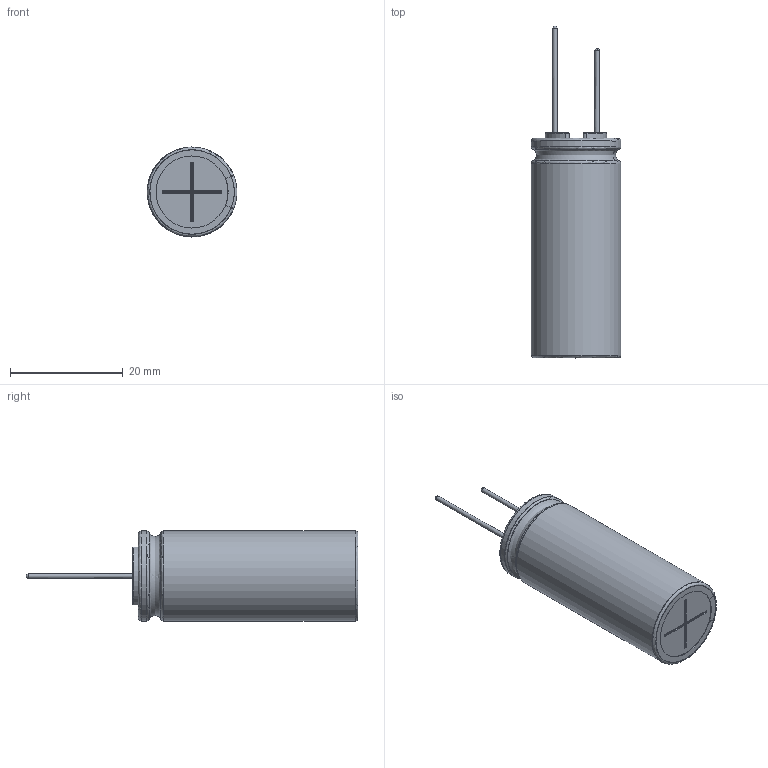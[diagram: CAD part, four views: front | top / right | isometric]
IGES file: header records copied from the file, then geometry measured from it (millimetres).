
Start section: JAMA-IS VERSION  1.0
Bounding box: 15.98 x 59 x 16 mm (x, y, z)
Surface area: 6703.8 mm2 (no closed solid volume)
Topology: 0 solids, 0 shells, 132 faces, 1511 edges, 1492 vertices
Faces by surface type: bspline 132
